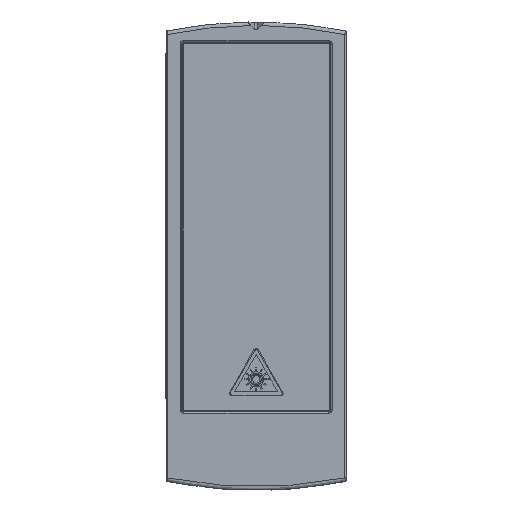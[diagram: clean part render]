
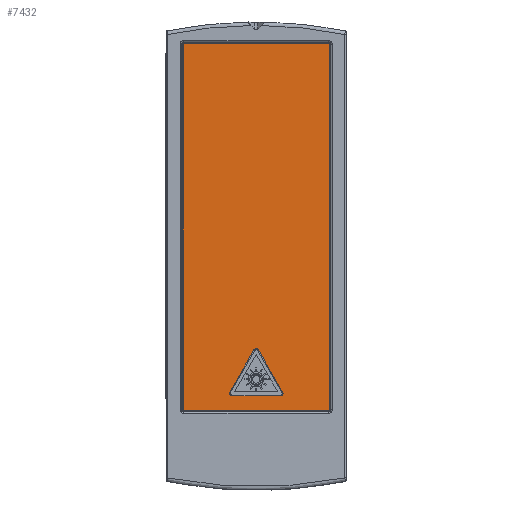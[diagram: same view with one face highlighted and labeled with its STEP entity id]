
A CAD part, top view. The second image highlights one B-rep face of the part: STEP entity #7432.
In plain terms, the highlighted planar face has unit normal (0, 0, 1).
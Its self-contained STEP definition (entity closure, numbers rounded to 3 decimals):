
#2539=FACE_BOUND('',#9572,.T.);
#2540=FACE_BOUND('',#9573,.T.);
#2875=PLANE('',#21934);
#4245=LINE('',#37323,#5923);
#4249=LINE('',#37363,#5929);
#4253=LINE('',#37403,#5935);
#4255=LINE('',#37407,#5937);
#4258=LINE('',#37413,#5940);
#4260=LINE('',#37417,#5942);
#4262=LINE('',#37423,#5944);
#5923=VECTOR('',#24974,1.);
#5929=VECTOR('',#24982,1.);
#5935=VECTOR('',#24990,1.);
#5937=VECTOR('',#24994,1.);
#5940=VECTOR('',#24999,1.);
#5942=VECTOR('',#25003,1.);
#5944=VECTOR('',#25009,1.);
#7432=ADVANCED_FACE('',(#2539,#2540),#2875,.F.);
#9572=EDGE_LOOP('',(#13564,#13565,#13566,#13567));
#9573=EDGE_LOOP('',(#13568,#13569,#13570,#13571,#13572,#13573,#13574,#13575,
#13576,#13577));
#13564=ORIENTED_EDGE('',*,*,#19237,.F.);
#13565=ORIENTED_EDGE('',*,*,#19229,.F.);
#13566=ORIENTED_EDGE('',*,*,#19232,.F.);
#13567=ORIENTED_EDGE('',*,*,#19234,.F.);
#13568=ORIENTED_EDGE('',*,*,#19227,.F.);
#13569=ORIENTED_EDGE('',*,*,#19225,.F.);
#13570=ORIENTED_EDGE('',*,*,#19223,.F.);
#13571=ORIENTED_EDGE('',*,*,#19221,.F.);
#13572=ORIENTED_EDGE('',*,*,#19219,.F.);
#13573=ORIENTED_EDGE('',*,*,#19217,.F.);
#13574=ORIENTED_EDGE('',*,*,#19215,.F.);
#13575=ORIENTED_EDGE('',*,*,#19213,.F.);
#13576=ORIENTED_EDGE('',*,*,#19211,.F.);
#13577=ORIENTED_EDGE('',*,*,#19209,.F.);
#16929=VERTEX_POINT('',#37274);
#16930=VERTEX_POINT('',#37282);
#16931=VERTEX_POINT('',#37298);
#16932=VERTEX_POINT('',#37314);
#16933=VERTEX_POINT('',#37324);
#16934=VERTEX_POINT('',#37336);
#16935=VERTEX_POINT('',#37354);
#16936=VERTEX_POINT('',#37364);
#16937=VERTEX_POINT('',#37376);
#16938=VERTEX_POINT('',#37394);
#16939=VERTEX_POINT('',#37406);
#16940=VERTEX_POINT('',#37408);
#16941=VERTEX_POINT('',#37412);
#16942=VERTEX_POINT('',#37416);
#19209=EDGE_CURVE('',#16929,#16930,#20708,.T.);
#19211=EDGE_CURVE('',#16930,#16931,#20710,.T.);
#19213=EDGE_CURVE('',#16931,#16932,#20712,.T.);
#19215=EDGE_CURVE('',#16932,#16933,#4245,.T.);
#19217=EDGE_CURVE('',#16933,#16934,#20714,.T.);
#19219=EDGE_CURVE('',#16934,#16935,#20716,.T.);
#19221=EDGE_CURVE('',#16935,#16936,#4249,.T.);
#19223=EDGE_CURVE('',#16936,#16937,#20718,.T.);
#19225=EDGE_CURVE('',#16937,#16938,#20720,.T.);
#19227=EDGE_CURVE('',#16938,#16929,#4253,.T.);
#19229=EDGE_CURVE('',#16939,#16940,#4255,.T.);
#19232=EDGE_CURVE('',#16941,#16939,#4258,.T.);
#19234=EDGE_CURVE('',#16942,#16941,#4260,.T.);
#19237=EDGE_CURVE('',#16940,#16942,#4262,.T.);
#20708=B_SPLINE_CURVE_WITH_KNOTS('',3,(#37275,#37276,#37277,#37278,#37279,
#37280,#37281),.UNSPECIFIED.,.F.,.F.,(4,1,1,1,4),(0.,0.25,0.5,0.75,1.),
 .UNSPECIFIED.);
#20710=B_SPLINE_CURVE_WITH_KNOTS('',3,(#37291,#37292,#37293,#37294,#37295,
#37296,#37297),.UNSPECIFIED.,.F.,.F.,(4,1,1,1,4),(0.,0.25,0.5,0.75,1.),
 .UNSPECIFIED.);
#20712=B_SPLINE_CURVE_WITH_KNOTS('',3,(#37307,#37308,#37309,#37310,#37311,
#37312,#37313),.UNSPECIFIED.,.F.,.F.,(4,1,1,1,4),(0.,0.25,0.5,0.75,1.),
 .UNSPECIFIED.);
#20714=B_SPLINE_CURVE_WITH_KNOTS('',3,(#37327,#37328,#37329,#37330,#37331,
#37332,#37333,#37334,#37335),.UNSPECIFIED.,.F.,.F.,(4,1,1,1,1,1,4),(0.,
0.125,0.25,0.5,0.75,0.875,1.),.UNSPECIFIED.);
#20716=B_SPLINE_CURVE_WITH_KNOTS('',3,(#37347,#37348,#37349,#37350,#37351,
#37352,#37353),.UNSPECIFIED.,.F.,.F.,(4,1,1,1,4),(0.,0.25,0.5,0.75,1.),
 .UNSPECIFIED.);
#20718=B_SPLINE_CURVE_WITH_KNOTS('',3,(#37367,#37368,#37369,#37370,#37371,
#37372,#37373,#37374,#37375),.UNSPECIFIED.,.F.,.F.,(4,1,1,1,1,1,4),(0.,
0.125,0.25,0.5,0.75,0.875,1.),.UNSPECIFIED.);
#20720=B_SPLINE_CURVE_WITH_KNOTS('',3,(#37387,#37388,#37389,#37390,#37391,
#37392,#37393),.UNSPECIFIED.,.F.,.F.,(4,1,1,1,4),(0.,0.25,0.5,0.75,1.),
 .UNSPECIFIED.);
#21934=AXIS2_PLACEMENT_3D('',#37426,#25014,#25015);
#24974=DIRECTION('',(-0.5,-0.866,0.));
#24982=DIRECTION('',(1.,0.,0.));
#24990=DIRECTION('',(-0.5,0.866,0.));
#24994=DIRECTION('',(1.,0.,0.));
#24999=DIRECTION('',(0.,1.,0.));
#25003=DIRECTION('',(-1.,0.,0.));
#25009=DIRECTION('',(0.,-1.,0.));
#25014=DIRECTION('',(0.,0.,-1.));
#25015=DIRECTION('',(-1.,0.,0.));
#37274=CARTESIAN_POINT('',(0.305,19.501,0.1));
#37275=CARTESIAN_POINT('',(0.305,19.501,0.1));
#37276=CARTESIAN_POINT('',(0.289,19.528,0.1));
#37277=CARTESIAN_POINT('',(0.249,19.58,0.1));
#37278=CARTESIAN_POINT('',(0.175,19.635,0.1));
#37279=CARTESIAN_POINT('',(0.09,19.669,0.1));
#37280=CARTESIAN_POINT('',(0.03,19.677,0.1));
#37281=CARTESIAN_POINT('',(0.,19.677,0.1));
#37282=CARTESIAN_POINT('',(0.,19.677,0.1));
#37291=CARTESIAN_POINT('',(0.,19.677,0.1));
#37292=CARTESIAN_POINT('',(-0.015,19.677,0.1));
#37293=CARTESIAN_POINT('',(-0.045,19.675,0.1));
#37294=CARTESIAN_POINT('',(-0.09,19.666,0.1));
#37295=CARTESIAN_POINT('',(-0.135,19.651,0.1));
#37296=CARTESIAN_POINT('',(-0.164,19.637,0.1));
#37297=CARTESIAN_POINT('',(-0.177,19.629,0.1));
#37298=CARTESIAN_POINT('',(-0.177,19.629,0.1));
#37307=CARTESIAN_POINT('',(-0.177,19.629,0.1));
#37308=CARTESIAN_POINT('',(-0.19,19.621,0.1));
#37309=CARTESIAN_POINT('',(-0.216,19.604,0.1));
#37310=CARTESIAN_POINT('',(-0.25,19.574,0.1));
#37311=CARTESIAN_POINT('',(-0.28,19.54,0.1));
#37312=CARTESIAN_POINT('',(-0.296,19.516,0.1));
#37313=CARTESIAN_POINT('',(-0.304,19.503,0.1));
#37314=CARTESIAN_POINT('',(-0.304,19.503,0.1));
#37323=CARTESIAN_POINT('',(-1.325,17.735,0.1));
#37324=CARTESIAN_POINT('',(-3.682,13.652,0.1));
#37327=CARTESIAN_POINT('',(-3.682,13.652,0.1));
#37328=CARTESIAN_POINT('',(-3.694,13.631,0.1));
#37329=CARTESIAN_POINT('',(-3.714,13.588,0.1));
#37330=CARTESIAN_POINT('',(-3.734,13.497,0.1));
#37331=CARTESIAN_POINT('',(-3.726,13.383,0.1));
#37332=CARTESIAN_POINT('',(-3.676,13.28,0.1));
#37333=CARTESIAN_POINT('',(-3.613,13.212,0.1));
#37334=CARTESIAN_POINT('',(-3.574,13.184,0.1));
#37335=CARTESIAN_POINT('',(-3.554,13.172,0.1));
#37336=CARTESIAN_POINT('',(-3.554,13.172,0.1));
#37347=CARTESIAN_POINT('',(-3.554,13.172,0.1));
#37348=CARTESIAN_POINT('',(-3.54,13.164,0.1));
#37349=CARTESIAN_POINT('',(-3.511,13.15,0.1));
#37350=CARTESIAN_POINT('',(-3.468,13.136,0.1));
#37351=CARTESIAN_POINT('',(-3.424,13.127,0.1));
#37352=CARTESIAN_POINT('',(-3.394,13.125,0.1));
#37353=CARTESIAN_POINT('',(-3.38,13.125,0.1));
#37354=CARTESIAN_POINT('',(-3.38,13.125,0.1));
#37363=CARTESIAN_POINT('',(10.125,13.125,0.1));
#37364=CARTESIAN_POINT('',(3.377,13.125,0.1));
#37367=CARTESIAN_POINT('',(3.377,13.125,0.1));
#37368=CARTESIAN_POINT('',(3.401,13.125,0.1));
#37369=CARTESIAN_POINT('',(3.449,13.13,0.1));
#37370=CARTESIAN_POINT('',(3.537,13.158,0.1));
#37371=CARTESIAN_POINT('',(3.631,13.221,0.1));
#37372=CARTESIAN_POINT('',(3.696,13.316,0.1));
#37373=CARTESIAN_POINT('',(3.724,13.404,0.1));
#37374=CARTESIAN_POINT('',(3.729,13.452,0.1));
#37375=CARTESIAN_POINT('',(3.729,13.476,0.1));
#37376=CARTESIAN_POINT('',(3.729,13.476,0.1));
#37387=CARTESIAN_POINT('',(3.729,13.476,0.1));
#37388=CARTESIAN_POINT('',(3.729,13.491,0.1));
#37389=CARTESIAN_POINT('',(3.727,13.523,0.1));
#37390=CARTESIAN_POINT('',(3.718,13.568,0.1));
#37391=CARTESIAN_POINT('',(3.703,13.612,0.1));
#37392=CARTESIAN_POINT('',(3.689,13.639,0.1));
#37393=CARTESIAN_POINT('',(3.682,13.652,0.1));
#37394=CARTESIAN_POINT('',(3.682,13.652,0.1));
#37403=CARTESIAN_POINT('',(6.387,8.967,0.1));
#37406=CARTESIAN_POINT('',(-10.125,61.975,0.1));
#37407=CARTESIAN_POINT('',(-10.125,61.975,0.1));
#37408=CARTESIAN_POINT('',(10.125,61.975,0.1));
#37412=CARTESIAN_POINT('',(-10.125,11.125,0.1));
#37413=CARTESIAN_POINT('',(-10.125,11.125,0.1));
#37416=CARTESIAN_POINT('',(10.125,11.125,0.1));
#37417=CARTESIAN_POINT('',(10.125,11.125,0.1));
#37423=CARTESIAN_POINT('',(10.125,61.975,0.1));
#37426=CARTESIAN_POINT('',(10.125,11.125,0.1));
